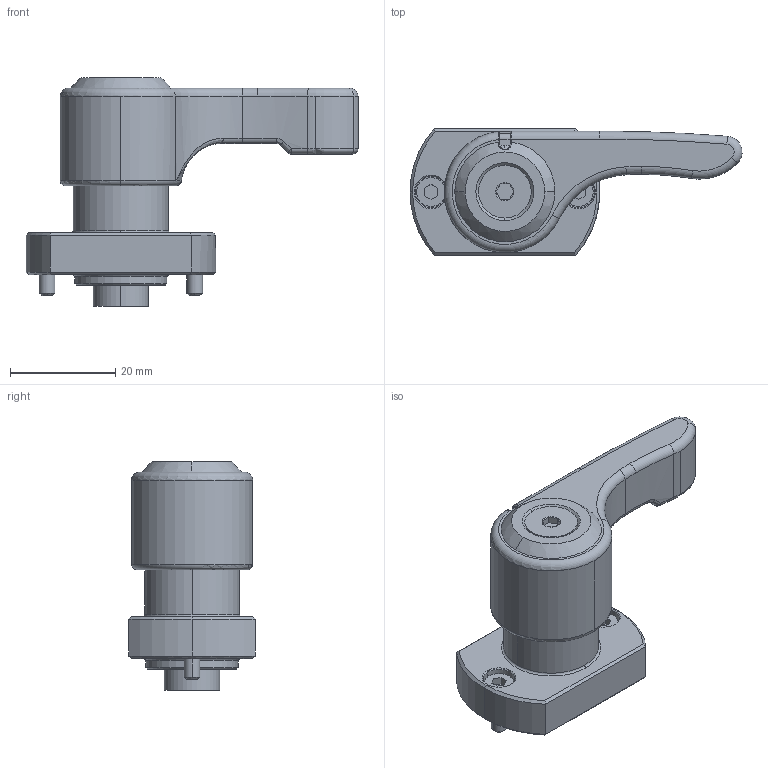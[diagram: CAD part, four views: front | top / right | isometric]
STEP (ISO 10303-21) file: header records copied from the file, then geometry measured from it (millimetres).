
FILE_DESCRIPTION (( 'STEP AP203' ), '1' );
FILE_NAME ('qcps1036-6-bk-f.STEP', '2023-04-07T01:55:49', ( '' ), ( '' ), 'SwSTEP 2.0', 'SolidWorks 2021', '' );
FILE_SCHEMA (( 'CONFIG_CONTROL_DESIGN' ));
Length unit declared in the file: millimetre
Products named in the file (4): qcps1036-6-bk-f_02_蹬怮椔; qcps1036-6-bk-f; qcps1036-6-bk-f_03_蹬怮椔; qcps1036-6-bk-f_01_蹬怮椔
Assembly tree (3 placements, depth 2):
  qcps1036-6-bk-f
    qcps1036-6-bk-f_01_蹬怮椔
    qcps1036-6-bk-f_02_蹬怮椔
    qcps1036-6-bk-f_03_蹬怮椔
Bounding box: 62.99 x 24 x 43.4 mm (x, y, z)
Volume: 18034 mm3; surface area: 11297.8 mm2
Topology: 3 solids, 3 shells, 362 faces, 845 edges, 524 vertices
Faces by surface type: plane 136, cylinder 109, torus 42, cone 41, bspline 23, sphere 11
Entity records: 12438 total; most frequent: CARTESIAN_POINT 3699, DIRECTION 1834, ORIENTED_EDGE 1684, EDGE_CURVE 842, AXIS2_PLACEMENT_3D 727, VERTEX_POINT 524, EDGE_LOOP 402, CIRCLE 382
